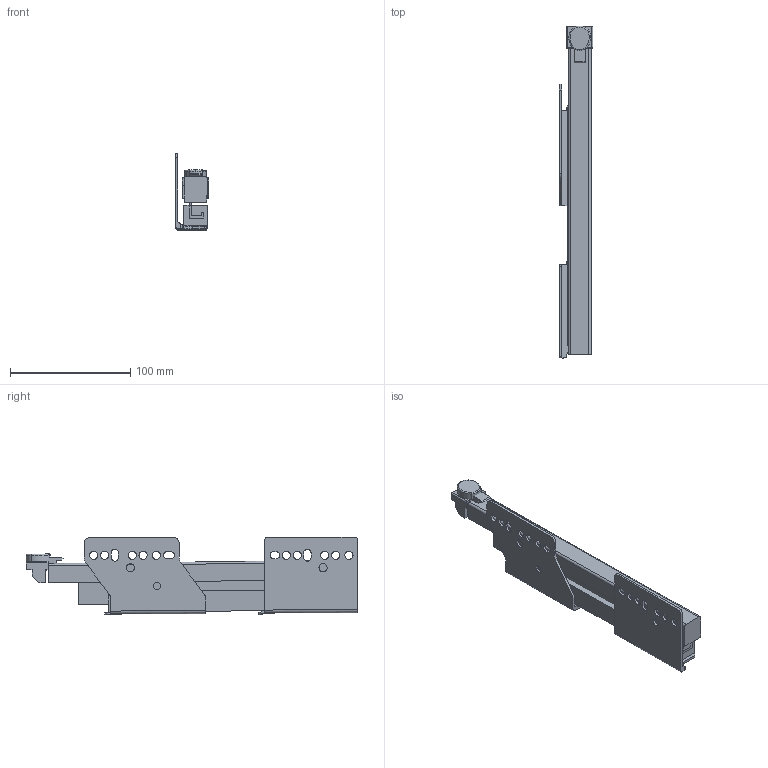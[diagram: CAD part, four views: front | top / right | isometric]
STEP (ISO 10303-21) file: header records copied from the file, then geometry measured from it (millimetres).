
FILE_DESCRIPTION (( 'STEP AP214' ), '1' );
FILE_NAME ('_IMOS_NOVA-Pro_KS_TL_EB29mm_LI_NL270.step', '2010-07-15T11:34:04', ( 'grass' ), ( '' ), 'SwSTEP 2.0', 'SolidWorks 2009', '' );
FILE_SCHEMA (( 'AUTOMOTIVE_DESIGN' ));
Length unit declared in the file: millimetre
Products named in the file (1): _IMOS_NOVA-Pro_KS_TL_EB29mm_LI_NL270
Bounding box: 27.9 x 275.71 x 64.46 mm (x, y, z)
Volume: 197911.1 mm3; surface area: 90542.1 mm2
Topology: 8 solids, 8 shells, 185 faces, 496 edges, 328 vertices
Faces by surface type: plane 116, cylinder 64, torus 5
Entity records: 5964 total; most frequent: CARTESIAN_POINT 1097, ORIENTED_EDGE 992, DIRECTION 972, EDGE_CURVE 496, VECTOR 350, LINE 350, VERTEX_POINT 328, AXIS2_PLACEMENT_3D 311
